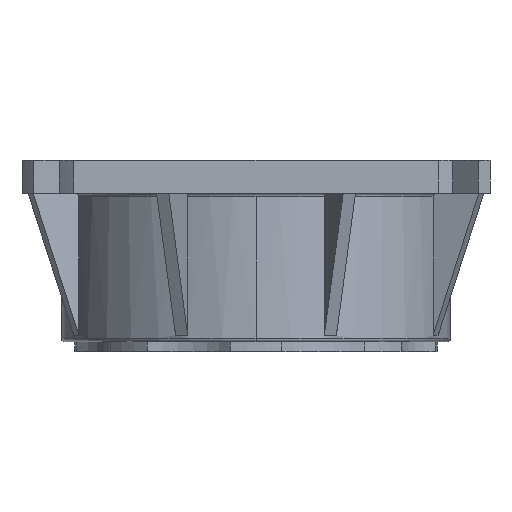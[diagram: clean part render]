
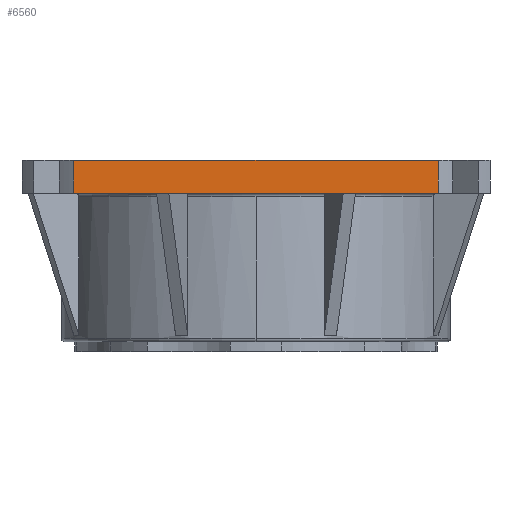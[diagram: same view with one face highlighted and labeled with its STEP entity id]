
A CAD part, left-side view. The second image highlights one B-rep face of the part: STEP entity #6560.
In plain terms, the highlighted planar face has unit normal (-1, 0, 0).
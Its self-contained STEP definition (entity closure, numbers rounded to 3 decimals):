
#2960 = ORIENTED_EDGE ( 'NONE', *, *, #6672, .T. ) ;
#2961 = ORIENTED_EDGE ( 'NONE', *, *, #6673, .F. ) ;
#2962 = ORIENTED_EDGE ( 'NONE', *, *, #6671, .F. ) ;
#2963 = ORIENTED_EDGE ( 'NONE', *, *, #6667, .T. ) ;
#6108 = PLANE ( 'NONE',  #6251 ) ;
#6109 = CARTESIAN_POINT ( 'NONE',  ( -71., -55.308, 10. ) ) ;
#6110 = DIRECTION ( 'NONE',  ( 1., 0., 0. ) ) ;
#6111 = DIRECTION ( 'NONE',  ( 0., 0., -1. ) ) ;
#6246 = FACE_OUTER_BOUND ( 'NONE', #10032, .T. ) ;
#6251 = AXIS2_PLACEMENT_3D ( 'NONE', #6109, #6110, #6111 ) ;
#6285 = VECTOR ( 'NONE', #8382, 1000. ) ;
#6560 = ADVANCED_FACE ( 'NONE', ( #6246 ), #6108, .F. ) ;
#6667 = EDGE_CURVE ( 'NONE', #8676, #8675, #8261, .T. ) ;
#6671 = EDGE_CURVE ( 'NONE', #8683, #8680, #8273, .T. ) ;
#6672 = EDGE_CURVE ( 'NONE', #8675, #8680, #8377, .T. ) ;
#6673 = EDGE_CURVE ( 'NONE', #8676, #8683, #8380, .T. ) ;
#8261 = LINE ( 'NONE', #8262, #8369 ) ;
#8262 = CARTESIAN_POINT ( 'NONE',  ( -71., 55.308, 10. ) ) ;
#8263 = DIRECTION ( 'NONE',  ( 0., 0., -1. ) ) ;
#8273 = LINE ( 'NONE', #8375, #8372 ) ;
#8369 = VECTOR ( 'NONE', #8263, 1000. ) ;
#8372 = VECTOR ( 'NONE', #8376, 1000. ) ;
#8373 = VECTOR ( 'NONE', #8379, 1000. ) ;
#8375 = CARTESIAN_POINT ( 'NONE',  ( -71., -55.308, 10. ) ) ;
#8376 = DIRECTION ( 'NONE',  ( 0., 0., -1. ) ) ;
#8377 = LINE ( 'NONE', #8378, #8373 ) ;
#8378 = CARTESIAN_POINT ( 'NONE',  ( -71., -55.308, 0. ) ) ;
#8379 = DIRECTION ( 'NONE',  ( 0., -1., 0. ) ) ;
#8380 = LINE ( 'NONE', #8381, #6285 ) ;
#8381 = CARTESIAN_POINT ( 'NONE',  ( -71., -55.308, 10. ) ) ;
#8382 = DIRECTION ( 'NONE',  ( 0., -1., 0. ) ) ;
#8675 = VERTEX_POINT ( 'NONE', #12081 ) ;
#8676 = VERTEX_POINT ( 'NONE', #12082 ) ;
#8680 = VERTEX_POINT ( 'NONE', #12084 ) ;
#8683 = VERTEX_POINT ( 'NONE', #12085 ) ;
#10032 = EDGE_LOOP ( 'NONE', ( #2960, #2962, #2961, #2963 ) ) ;
#12081 = CARTESIAN_POINT ( 'NONE',  ( -71., 55.308, 0. ) ) ;
#12082 = CARTESIAN_POINT ( 'NONE',  ( -71., 55.308, 10. ) ) ;
#12084 = CARTESIAN_POINT ( 'NONE',  ( -71., -55.308, 0. ) ) ;
#12085 = CARTESIAN_POINT ( 'NONE',  ( -71., -55.308, 10. ) ) ;
